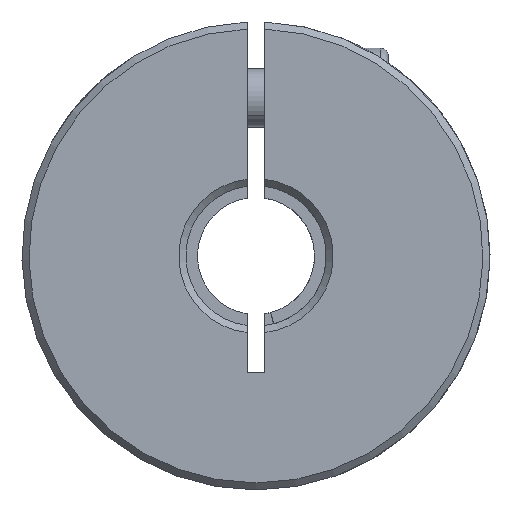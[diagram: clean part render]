
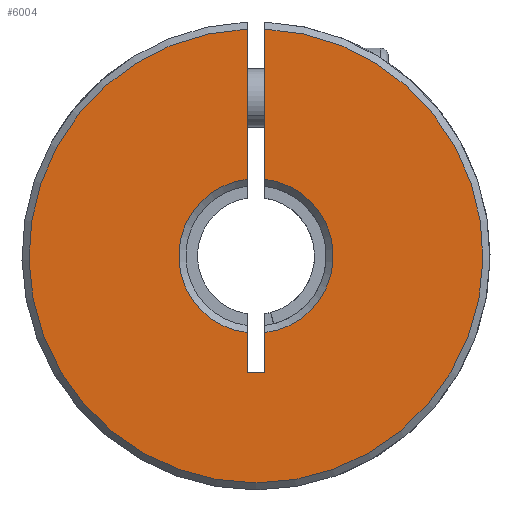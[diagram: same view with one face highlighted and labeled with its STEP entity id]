
A CAD part, front view. The second image highlights one B-rep face of the part: STEP entity #6004.
In plain terms, the highlighted planar face has unit normal (0, -1, 0).
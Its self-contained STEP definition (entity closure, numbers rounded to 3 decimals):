
#380 = DIRECTION ( 'NONE',  ( 0., 0., 1. ) ) ;
#467 = VERTEX_POINT ( 'NONE', #4951 ) ;
#577 = VECTOR ( 'NONE', #1236, 1000. ) ;
#694 = CIRCLE ( 'NONE', #4111, 6.6 ) ;
#773 = ORIENTED_EDGE ( 'NONE', *, *, #938, .T. ) ;
#793 = VECTOR ( 'NONE', #5065, 1000. ) ;
#803 = VERTEX_POINT ( 'NONE', #2469 ) ;
#811 = CARTESIAN_POINT ( 'NONE',  ( 0., -25., 0. ) ) ;
#853 = CARTESIAN_POINT ( 'NONE',  ( -0.75, -25., -10. ) ) ;
#938 = EDGE_CURVE ( 'NONE', #3336, #2959, #5696, .T. ) ;
#968 = CIRCLE ( 'NONE', #3705, 6.6 ) ;
#1099 = DIRECTION ( 'NONE',  ( 0., 0., 1. ) ) ;
#1236 = DIRECTION ( 'NONE',  ( 0., 0., -1. ) ) ;
#1254 = VERTEX_POINT ( 'NONE', #1505 ) ;
#1276 = CARTESIAN_POINT ( 'NONE',  ( -0.75, -25., -10. ) ) ;
#1472 = ORIENTED_EDGE ( 'NONE', *, *, #5257, .T. ) ;
#1475 = CARTESIAN_POINT ( 'NONE',  ( -0.75, -25., 19.385 ) ) ;
#1505 = CARTESIAN_POINT ( 'NONE',  ( -0.75, -25., 6.557 ) ) ;
#1725 = LINE ( 'NONE', #4934, #577 ) ;
#1767 = AXIS2_PLACEMENT_3D ( 'NONE', #811, #2682, #380 ) ;
#1830 = CIRCLE ( 'NONE', #5744, 19.4 ) ;
#1831 = EDGE_LOOP ( 'NONE', ( #773, #4713, #2187, #5047, #1472, #5870, #4466, #2318 ) ) ;
#1920 = CARTESIAN_POINT ( 'NONE',  ( 0.75, -25., -10. ) ) ;
#1938 = VECTOR ( 'NONE', #2734, 1000. ) ;
#1954 = DIRECTION ( 'NONE',  ( 0., 0., -1. ) ) ;
#2187 = ORIENTED_EDGE ( 'NONE', *, *, #2600, .T. ) ;
#2318 = ORIENTED_EDGE ( 'NONE', *, *, #3230, .T. ) ;
#2434 = DIRECTION ( 'NONE',  ( 0., 0., 1. ) ) ;
#2469 = CARTESIAN_POINT ( 'NONE',  ( -0.75, -25., -6.557 ) ) ;
#2484 = CARTESIAN_POINT ( 'NONE',  ( 0.75, -25., -6.557 ) ) ;
#2600 = EDGE_CURVE ( 'NONE', #4916, #467, #1725, .T. ) ;
#2682 = DIRECTION ( 'NONE',  ( 0., 1., 0. ) ) ;
#2697 = LINE ( 'NONE', #853, #1938 ) ;
#2734 = DIRECTION ( 'NONE',  ( 0., 0., 1. ) ) ;
#2791 = LINE ( 'NONE', #4603, #793 ) ;
#2891 = CARTESIAN_POINT ( 'NONE',  ( 0., -25., 0. ) ) ;
#2959 = VERTEX_POINT ( 'NONE', #3064 ) ;
#3064 = CARTESIAN_POINT ( 'NONE',  ( 0.75, -25., 6.557 ) ) ;
#3127 = FACE_OUTER_BOUND ( 'NONE', #1831, .T. ) ;
#3230 = EDGE_CURVE ( 'NONE', #5723, #3336, #1830, .T. ) ;
#3253 = LINE ( 'NONE', #5079, #5663 ) ;
#3336 = VERTEX_POINT ( 'NONE', #4065 ) ;
#3607 = VERTEX_POINT ( 'NONE', #1276 ) ;
#3705 = AXIS2_PLACEMENT_3D ( 'NONE', #5461, #4869, #3957 ) ;
#3956 = EDGE_CURVE ( 'NONE', #803, #1254, #968, .T. ) ;
#3957 = DIRECTION ( 'NONE',  ( 0., 0., 1. ) ) ;
#4065 = CARTESIAN_POINT ( 'NONE',  ( 0.75, -25., 19.385 ) ) ;
#4068 = PLANE ( 'NONE',  #1767 ) ;
#4111 = AXIS2_PLACEMENT_3D ( 'NONE', #2891, #4760, #2434 ) ;
#4137 = DIRECTION ( 'NONE',  ( -1., 0., 0. ) ) ;
#4151 = EDGE_CURVE ( 'NONE', #1254, #5723, #2697, .T. ) ;
#4434 = EDGE_CURVE ( 'NONE', #467, #3607, #3253, .T. ) ;
#4466 = ORIENTED_EDGE ( 'NONE', *, *, #4151, .T. ) ;
#4603 = CARTESIAN_POINT ( 'NONE',  ( -0.75, -25., -10. ) ) ;
#4713 = ORIENTED_EDGE ( 'NONE', *, *, #5006, .T. ) ;
#4760 = DIRECTION ( 'NONE',  ( 0., 1., 0. ) ) ;
#4869 = DIRECTION ( 'NONE',  ( 0., 1., 0. ) ) ;
#4916 = VERTEX_POINT ( 'NONE', #2484 ) ;
#4934 = CARTESIAN_POINT ( 'NONE',  ( 0.75, -25., -10. ) ) ;
#4951 = CARTESIAN_POINT ( 'NONE',  ( 0.75, -25., -10. ) ) ;
#5006 = EDGE_CURVE ( 'NONE', #2959, #4916, #694, .T. ) ;
#5047 = ORIENTED_EDGE ( 'NONE', *, *, #4434, .T. ) ;
#5065 = DIRECTION ( 'NONE',  ( 0., 0., 1. ) ) ;
#5079 = CARTESIAN_POINT ( 'NONE',  ( -0.75, -25., -10. ) ) ;
#5257 = EDGE_CURVE ( 'NONE', #3607, #803, #2791, .T. ) ;
#5289 = DIRECTION ( 'NONE',  ( 0., -1., 0. ) ) ;
#5461 = CARTESIAN_POINT ( 'NONE',  ( 0., -25., 0. ) ) ;
#5663 = VECTOR ( 'NONE', #4137, 1000. ) ;
#5696 = LINE ( 'NONE', #1920, #5718 ) ;
#5718 = VECTOR ( 'NONE', #1954, 1000. ) ;
#5723 = VERTEX_POINT ( 'NONE', #1475 ) ;
#5744 = AXIS2_PLACEMENT_3D ( 'NONE', #5754, #5289, #1099 ) ;
#5754 = CARTESIAN_POINT ( 'NONE',  ( 0., -25., 0. ) ) ;
#5870 = ORIENTED_EDGE ( 'NONE', *, *, #3956, .T. ) ;
#6004 = ADVANCED_FACE ( 'NONE', ( #3127 ), #4068, .F. ) ;
